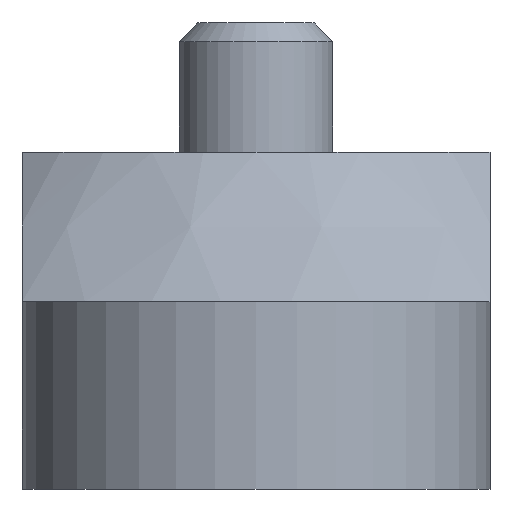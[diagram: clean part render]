
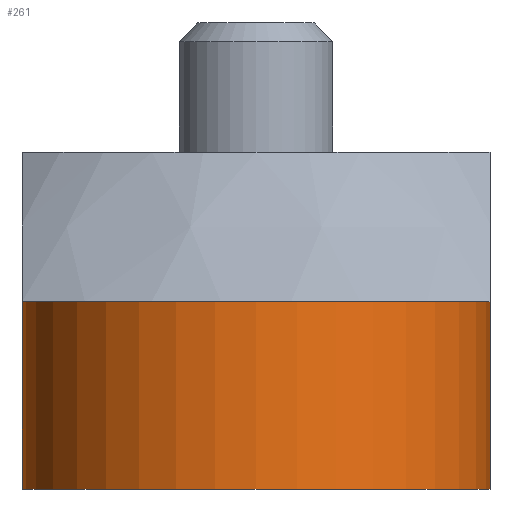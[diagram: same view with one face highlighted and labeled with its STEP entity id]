
A CAD part, front view. The second image highlights one B-rep face of the part: STEP entity #261.
In plain terms, the highlighted cylindrical face has radius 12.5 mm (diameter 25 mm), a partial arc.
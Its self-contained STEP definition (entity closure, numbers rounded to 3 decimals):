
#14=CYLINDRICAL_SURFACE('',#297,12.5);
#26=LINE('',#434,#36);
#30=LINE('',#448,#40);
#36=VECTOR('',#345,1000.);
#40=VECTOR('',#351,1000.);
#55=ORIENTED_EDGE('',*,*,#110,.T.);
#56=ORIENTED_EDGE('',*,*,#116,.F.);
#57=ORIENTED_EDGE('',*,*,#117,.F.);
#58=ORIENTED_EDGE('',*,*,#111,.T.);
#110=EDGE_CURVE('',#138,#141,#164,.T.);
#111=EDGE_CURVE('',#142,#138,#26,.T.);
#116=EDGE_CURVE('',#146,#141,#30,.T.);
#117=EDGE_CURVE('',#142,#146,#165,.T.);
#138=VERTEX_POINT('',#426);
#141=VERTEX_POINT('',#431);
#142=VERTEX_POINT('',#435);
#146=VERTEX_POINT('',#449);
#164=CIRCLE('',#295,12.5);
#165=CIRCLE('',#298,12.5);
#184=EDGE_LOOP('',(#55,#56,#57,#58));
#218=FACE_BOUND('',#184,.T.);
#261=ADVANCED_FACE('',(#218),#14,.T.);
#295=AXIS2_PLACEMENT_3D('',#432,#341,#342);
#297=AXIS2_PLACEMENT_3D('',#447,#349,#350);
#298=AXIS2_PLACEMENT_3D('',#450,#352,#353);
#341=DIRECTION('',(0.,0.,-1.));
#342=DIRECTION('',(-1.,0.,0.));
#345=DIRECTION('',(0.,0.,1.));
#349=DIRECTION('',(0.,0.,1.));
#350=DIRECTION('',(-1.,0.,0.));
#351=DIRECTION('',(0.,0.,1.));
#352=DIRECTION('',(0.,0.,-1.));
#353=DIRECTION('',(-1.,0.,0.));
#426=CARTESIAN_POINT('',(68.625,0.,79.25));
#431=CARTESIAN_POINT('',(43.625,0.,79.25));
#432=CARTESIAN_POINT('',(56.125,0.,79.25));
#434=CARTESIAN_POINT('',(68.625,0.,69.25));
#435=CARTESIAN_POINT('',(68.625,0.,69.25));
#447=CARTESIAN_POINT('',(56.125,0.,69.25));
#448=CARTESIAN_POINT('',(43.625,0.,69.25));
#449=CARTESIAN_POINT('',(43.625,0.,69.25));
#450=CARTESIAN_POINT('',(56.125,0.,69.25));
